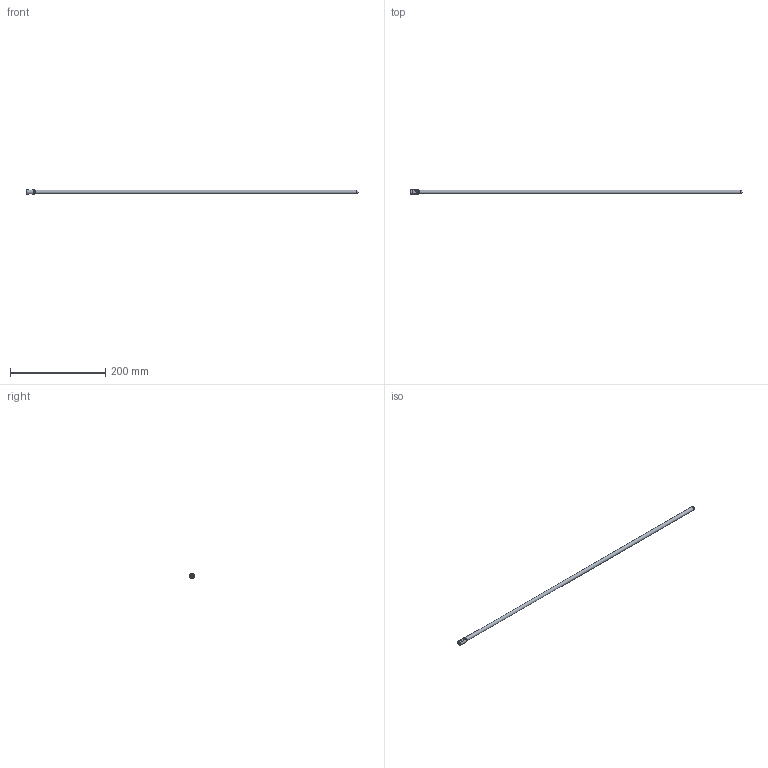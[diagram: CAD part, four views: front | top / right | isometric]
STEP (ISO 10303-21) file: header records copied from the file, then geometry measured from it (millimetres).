
FILE_DESCRIPTION( ( 'STEP AP203' ), '1' );
FILE_NAME( 'p:/temp/worker_29/temp/app_43_02018102213121155713248192d056f_000000_00_00_000000/format_3/E43347.stp', '2018-10-22T11:12:13', ( '' ), ( '' ), ' ', 'PARTsolutions', ' ' );
FILE_SCHEMA( ( 'CONFIG_CONTROL_DESIGN' ) );
Length unit declared in the file: millimetre
Products named in the file (1): _E43347
Bounding box: 697.38 x 10 x 10 mm (x, y, z)
Volume: 35174.9 mm3; surface area: 17919.2 mm2
Topology: 1 solids, 1 shells, 20 faces, 41 edges, 24 vertices
Faces by surface type: cylinder 8, torus 4, plane 3, cone 3, sphere 2
Full cylindrical faces by diameter (mm): 4.917 x1, 7.12 x1, 8 x1, 10 x1
Entity records: 570 total; most frequent: CARTESIAN_POINT 169, DIRECTION 76, ORIENTED_EDGE 50, AXIS2_PLACEMENT_3D 34, EDGE_LOOP 34, FACE_OUTER_BOUND 29, EDGE_CURVE 25, VERTEX_POINT 23
